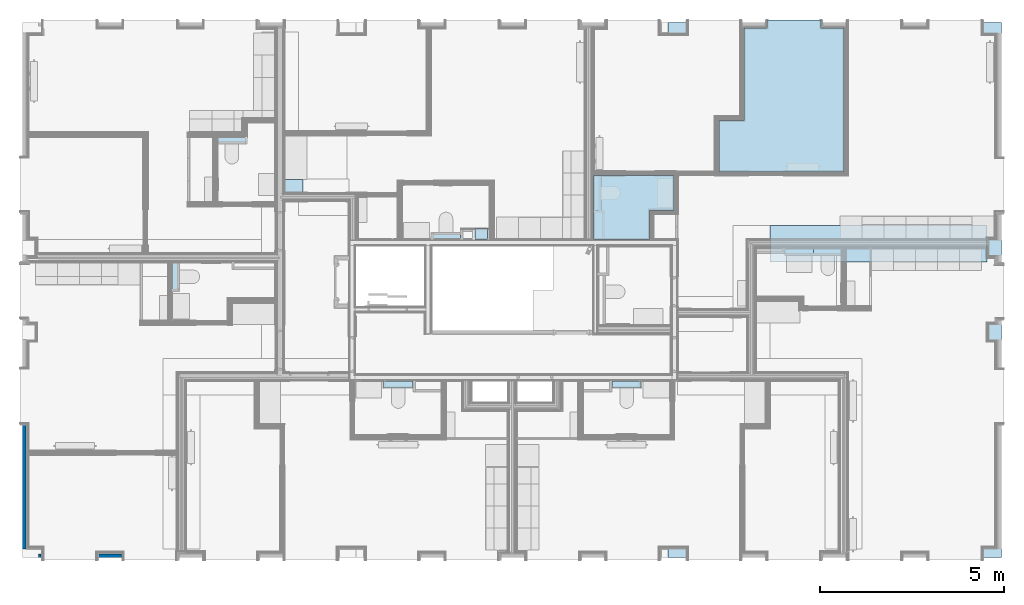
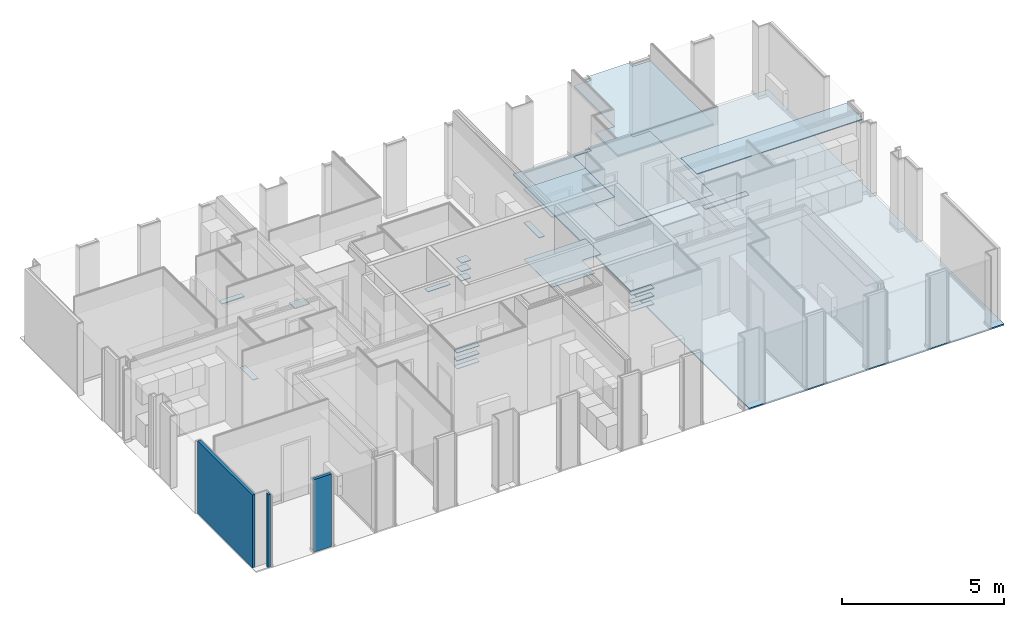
# One storey, part 1 of 64: 25 slabs, 3 walls.
"""IFC2X3 building model written with IfcOpenShell, lengths in metres."""

import ifcopenshell
import ifcopenshell.guid

model = None  # the IFC model being written
_history = None  # IfcOwnerHistory: only IFC2X3 demands one
_inside = {}  # id of a spatial element -> (the spatial element, [elements in it])
_under = {}  # id of a project, library or spatial element -> (it, [spatial elements below it])
_declared = {}  # id of a project -> (the project, [libraries it declares])
_typed = {}  # id of a type object -> (the type object, [elements of that type])
_made_of = {}  # id of a material, layer set ... -> (it, [elements and type objects made of it])


def new_model(schema):
    """Start an empty IFC model of exactly this schema.

    Asked for "IFC4X3", IfcOpenShell would pick the latest addendum, in which some entities
    have other attributes; the version numbers below select the first issue.
    IFC2X3 requires an IfcOwnerHistory on every rooted entity: one is made here for all.
    """
    global model, _history
    if schema == "IFC4X3":
        model = ifcopenshell.file(schema_version=(4, 3, 0, 0))
    else:
        model = ifcopenshell.file(schema=schema)
    _inside.clear()
    _under.clear()
    _declared.clear()
    _typed.clear()
    _made_of.clear()
    _history = None
    if model.schema == "IFC2X3":
        org = make("IfcOrganization", Name="unknown")
        user = make(
            "IfcPersonAndOrganization",
            ThePerson=make("IfcPerson", FamilyName="unknown"),
            TheOrganization=org,
        )
        app = make(
            "IfcApplication",
            ApplicationDeveloper=org,
            Version="unknown",
            ApplicationFullName="unknown",
            ApplicationIdentifier="unknown",
        )
        _history = make(
            "IfcOwnerHistory",
            OwningUser=user,
            OwningApplication=app,
            ChangeAction="ADDED",
            CreationDate=0,
        )
    return model


def make(cls, **values):
    """One entity of the class cls with the attributes given. An attribute that is None is left unset."""
    return model.create_entity(
        cls, **{name: value for name, value in values.items() if value is not None}
    )


def entity(cls, *values):
    """Any entity or typed value of the class cls, its attributes in the order of the schema. None: left unset."""
    e = model.create_entity(cls)
    for i, value in enumerate(values):
        if value is not None:
            e[i] = value
    return e


def rooted(cls, **values):
    """An entity with a GlobalId (a new one), such as an element, a storey or a relation."""
    return make(cls, GlobalId=ifcopenshell.guid.new(), OwnerHistory=_history, **values)


def si_unit(unit_type, name, prefix=None):
    """IfcSIUnit, for example si_unit("LENGTHUNIT", "METRE", prefix="MILLI")."""
    return make("IfcSIUnit", UnitType=unit_type, Prefix=prefix, Name=name)


def converted_unit(unit_type, name, factor, base, dimensions=None, offset=None):
    """IfcConversionBasedUnit, such as the inch: factor (a typed value) times the base unit."""
    return make(
        "IfcConversionBasedUnit"
        if offset is None
        else "IfcConversionBasedUnitWithOffset",
        ConversionOffset=offset,
        Dimensions=None
        if dimensions is None
        else entity("IfcDimensionalExponents", *dimensions),
        UnitType=unit_type,
        Name=name,
        ConversionFactor=make(
            "IfcMeasureWithUnit", ValueComponent=factor, UnitComponent=base
        ),
    )


def derived_unit(unit_type, elements):
    """IfcDerivedUnit: a product of units, each with its exponent."""
    return make(
        "IfcDerivedUnit",
        Elements=[
            make("IfcDerivedUnitElement", Unit=unit, Exponent=power)
            for unit, power in elements
        ],
        UnitType=unit_type,
    )


def money_unit(currency):
    """IfcMonetaryUnit."""
    return make("IfcMonetaryUnit", Currency=currency)


def assignment(units):
    """IfcUnitAssignment: the units of a project."""
    return None if units is None else make("IfcUnitAssignment", Units=units)


def point(xyz):
    """IfcCartesianPoint."""
    return None if xyz is None else make("IfcCartesianPoint", Coordinates=xyz)


def direction(xyz):
    """IfcDirection."""
    return None if xyz is None else make("IfcDirection", DirectionRatios=xyz)


def frame(location, z_axis=None, x_axis=None):
    """IfcAxis2Placement3D, a coordinate frame: its origin and axes. An axis left out is left unset."""
    return make(
        "IfcAxis2Placement3D",
        Location=point(location),
        Axis=direction(z_axis),
        RefDirection=direction(x_axis),
    )


def frame_2d(location, x_axis=None):
    """IfcAxis2Placement2D, a coordinate frame in the plane: its origin and x axis."""
    return make(
        "IfcAxis2Placement2D", Location=point(location), RefDirection=direction(x_axis)
    )


def origin_with_axes():
    """The frame at (0, 0, 0) with the z axis (0, 0, 1) and the x axis (1, 0, 0) written out."""
    return frame((0.0, 0.0, 0.0), z_axis=(0.0, 0.0, 1.0), x_axis=(1.0, 0.0, 0.0))


def place(relative_to, where):
    """IfcLocalPlacement: puts the frame where relative to a parent placement (None: the world)."""
    return make(
        "IfcLocalPlacement", PlacementRelTo=relative_to, RelativePlacement=where
    )


def context(
    kind, dimensions, precision=None, world=None, true_north=None, identifier=None
):
    """IfcGeometricRepresentationContext, for example the 3D "Model" context."""
    return make(
        "IfcGeometricRepresentationContext",
        ContextIdentifier=identifier,
        ContextType=kind,
        CoordinateSpaceDimension=dimensions,
        Precision=precision,
        WorldCoordinateSystem=world,
        TrueNorth=true_north,
    )


def subcontext(parent, identifier, kind, view, scale=None):
    """IfcGeometricRepresentationSubContext, for example "Body" below "Model"."""
    return make(
        "IfcGeometricRepresentationSubContext",
        ContextIdentifier=identifier,
        ContextType=kind,
        ParentContext=parent,
        TargetScale=scale,
        TargetView=view,
    )


def project(units=None, contexts=None):
    """IfcProject with its units and contexts."""
    return rooted(
        "IfcProject",
        Name="project",
        RepresentationContexts=contexts,
        UnitsInContext=assignment(units),
    )


def spatial(cls, under=None, at=None, **own):
    """A site, building, storey or space (cls), placed at a placement, below another one or the project."""
    s = rooted(cls, ObjectPlacement=at, **own)
    if under is not None:
        _under.setdefault(under.id(), (under, []))[1].append(s)
    return s


def profile(cls, at=None, kind="AREA", **sizes):
    """A parametric profile (cls). Its sizes go by their IFC names, for example OverallWidth=200.0."""
    return make(cls, ProfileType=kind, Position=at, **sizes)


def rectangle(**sizes):
    """IfcRectangleProfileDef."""
    return profile("IfcRectangleProfileDef", **sizes)


def extrude(swept, where, along, depth):
    """IfcExtrudedAreaSolid: the profile swept, set in the frame where, extruded along a direction by depth."""
    return make(
        "IfcExtrudedAreaSolid",
        SweptArea=swept,
        Position=where,
        ExtrudedDirection=direction(along),
        Depth=depth,
    )


def faces_of(points, faces, orient=None, outer=None):
    """IfcFace entities. A face is a list of loops; a loop is a list of indices into points, from 0.

    orient and outer hold one flag for each loop. By default every Orientation is true, the
    first loop of a face is its IfcFaceOuterBound and the others are IfcFaceBound.
    """
    made = []
    for i, loops in enumerate(faces):
        bounds = []
        for j, loop in enumerate(loops):
            is_outer = j == 0 if outer is None else outer[i][j]
            bounds.append(
                make(
                    "IfcFaceOuterBound" if is_outer else "IfcFaceBound",
                    Bound=make("IfcPolyLoop", Polygon=[points[k] for k in loop]),
                    Orientation=True if orient is None else orient[i][j],
                )
            )
        made.append(make("IfcFace", Bounds=bounds))
    return made


def faceted_brep(points, faces, orient=None, outer=None, voids=None):
    """IfcFacetedBrep: a solid bounded by flat faces; with voids (closed shells), ...WithVoids."""
    shared = [point(p) for p in points]
    hull = make("IfcClosedShell", CfsFaces=faces_of(shared, faces, orient, outer))
    if voids is None:
        return make("IfcFacetedBrep", Outer=hull)
    return make(
        "IfcFacetedBrepWithVoids",
        Outer=hull,
        Voids=[
            make(cls, CfsFaces=faces_of(shared, fs, o, b)) for cls, fs, o, b in voids
        ],
    )


def shape(context_of_items, identifier, shape_type, items):
    """IfcShapeRepresentation: the items that make up one representation, for example the "Body"."""
    return make(
        "IfcShapeRepresentation",
        ContextOfItems=context_of_items,
        RepresentationIdentifier=identifier,
        RepresentationType=shape_type,
        Items=items,
    )


def material(Name=None, Category=None):
    """IfcMaterial."""
    return make("IfcMaterial", Name=Name, Category=Category)


def layer(
    of_material, thickness, ventilated=None, Name=None, Category=None, Priority=None
):
    """IfcMaterialLayer: one layer of a wall or slab, of a material (None: an air gap)."""
    return make(
        "IfcMaterialLayer",
        Material=of_material,
        LayerThickness=thickness,
        IsVentilated=ventilated,
        Name=Name,
        Category=Category,
        Priority=Priority,
    )


def layer_set(layers, Name=None):
    """IfcMaterialLayerSet."""
    return make("IfcMaterialLayerSet", MaterialLayers=layers, LayerSetName=Name)


def layer_usage(for_layer_set, set_direction, sense, offset, extent=None):
    """IfcMaterialLayerSetUsage: how a layer set lies in its element."""
    return make(
        "IfcMaterialLayerSetUsage",
        ForLayerSet=for_layer_set,
        LayerSetDirection=set_direction,
        DirectionSense=sense,
        OffsetFromReferenceLine=offset,
        ReferenceExtent=extent,
    )


def made_of(thing, what):
    """Note that an element or type object is made of a material, layer set ...; save() writes the relation."""
    if what is not None:
        _made_of.setdefault(what.id(), (what, []))[1].append(thing)
    return thing


def type_object(cls, material=None, **own):
    """A type object (cls), such as IfcWallType, which elements share."""
    return made_of(rooted(cls, **own), material)


def element(
    cls,
    number,
    at=None,
    inside=None,
    cuts=None,
    type_object=None,
    material=None,
    context=None,
    identifier="Body",
    shape_type=None,
    held_by="IfcProductDefinitionShape",
    body=None,
    shapes=None,
    **own,
):
    """One element of the class cls, such as IfcWall. Its Tag is "e" and its number.

    at: its placement. inside: the storey or other place that contains it. cuts: it is an
    opening in that element (IfcRelVoidsElement). A single representation is given by context,
    identifier, shape_type and body (its items); several are given by shapes. held_by: the class
    of the entity that holds the representations. save() writes the other relations.
    """
    e = rooted(cls, Tag="e%d" % number, ObjectPlacement=at, **own)
    if body is not None:
        shapes = [shape(context, identifier, shape_type, body)]
    if shapes is not None:
        e.Representation = make(held_by, Representations=shapes)
    if inside is not None:
        _inside.setdefault(inside.id(), (inside, []))[1].append(e)
    if cuts is not None:
        rooted(
            "IfcRelVoidsElement", RelatingBuildingElement=cuts, RelatedOpeningElement=e
        )
    if type_object is not None:
        _typed.setdefault(type_object.id(), (type_object, []))[1].append(e)
    return made_of(e, material)


def aggregate(whole, parts):
    """IfcRelAggregates: a whole, such as a stair, and the parts it consists of."""
    return rooted("IfcRelAggregates", RelatingObject=whole, RelatedObjects=parts)


def save(model, path):
    """Write the relations noted so far, then the file.

    IfcRelAggregates (storeys below a building ...), IfcRelContainedInSpatialStructure (elements
    in a storey), IfcRelDefinesByType, IfcRelAssociatesMaterial and IfcRelDeclares: one each for
    every whole, place, type object, material and project.
    """
    for whole, parts in _under.values():
        aggregate(whole, parts)
    for where, things in _inside.values():
        rooted(
            "IfcRelContainedInSpatialStructure",
            RelatedElements=things,
            RelatingStructure=where,
        )
    for kind, things in _typed.values():
        rooted("IfcRelDefinesByType", RelatedObjects=things, RelatingType=kind)
    for what, things in _made_of.values():
        rooted("IfcRelAssociatesMaterial", RelatedObjects=things, RelatingMaterial=what)
    for by, libraries in _declared.values():
        rooted("IfcRelDeclares", RelatingContext=by, RelatedDefinitions=libraries)
    model.write(path)


model = new_model("IFC2X3")

# Units and contexts
model_context = context("Model", 3, precision=1e-05, world=origin_with_axes(), true_north=direction((0.0, 1.0)))
body_context = subcontext(model_context, "Body", "Model", "MODEL_VIEW", scale=1.0)
ifc_project = project(units=[si_unit("LENGTHUNIT", "METRE"), si_unit("AREAUNIT", "SQUARE_METRE"), si_unit("VOLUMEUNIT", "CUBIC_METRE"), si_unit("ABSORBEDDOSEUNIT", "GRAY"), si_unit("AMOUNTOFSUBSTANCEUNIT", "MOLE"), si_unit("DOSEEQUIVALENTUNIT", "SIEVERT"), si_unit("ELECTRICCAPACITANCEUNIT", "FARAD"), si_unit("ELECTRICCHARGEUNIT", "COULOMB"), si_unit("ELECTRICCONDUCTANCEUNIT", "SIEMENS"), si_unit("ELECTRICCURRENTUNIT", "AMPERE"), si_unit("ELECTRICRESISTANCEUNIT", "OHM"), si_unit("ELECTRICVOLTAGEUNIT", "VOLT"), si_unit("ENERGYUNIT", "JOULE"), si_unit("FORCEUNIT", "NEWTON"), si_unit("FREQUENCYUNIT", "HERTZ"), si_unit("ILLUMINANCEUNIT", "LUX"), si_unit("INDUCTANCEUNIT", "HENRY"), si_unit("LUMINOUSFLUXUNIT", "LUMEN"), si_unit("LUMINOUSINTENSITYUNIT", "CANDELA"), si_unit("MAGNETICFLUXDENSITYUNIT", "TESLA"), si_unit("MAGNETICFLUXUNIT", "WEBER"), si_unit("MASSUNIT", "GRAM"), converted_unit("PLANEANGLEUNIT", "degree", entity("IfcReal", 0.0174532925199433), si_unit("PLANEANGLEUNIT", "RADIAN"), dimensions=[0, 0, 0, 0, 0, 0, 0]), si_unit("POWERUNIT", "WATT"), si_unit("PRESSUREUNIT", "PASCAL"), si_unit("RADIOACTIVITYUNIT", "BECQUEREL"), si_unit("SOLIDANGLEUNIT", "STERADIAN"), si_unit("THERMODYNAMICTEMPERATUREUNIT", "KELVIN"), si_unit("TIMEUNIT", "SECOND"), derived_unit("ACCELERATIONUNIT", [(si_unit("LENGTHUNIT", "METRE"), 1), (si_unit("TIMEUNIT", "SECOND"), -2)]), derived_unit("ANGULARVELOCITYUNIT", [(converted_unit("PLANEANGLEUNIT", "degree", entity("IfcReal", 0.0174532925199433), si_unit("PLANEANGLEUNIT", "RADIAN"), dimensions=[0, 0, 0, 0, 0, 0, 0]), 1), (si_unit("TIMEUNIT", "SECOND"), -1)]), derived_unit("CURVATUREUNIT", [(converted_unit("PLANEANGLEUNIT", "degree", entity("IfcReal", 0.0174532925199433), si_unit("PLANEANGLEUNIT", "RADIAN"), dimensions=[0, 0, 0, 0, 0, 0, 0]), 1), (si_unit("LENGTHUNIT", "METRE"), -1)]), derived_unit("DYNAMICVISCOSITYUNIT", [(si_unit("PRESSUREUNIT", "PASCAL"), 1), (si_unit("TIMEUNIT", "SECOND"), 1)]), derived_unit("HEATFLUXDENSITYUNIT", [(si_unit("POWERUNIT", "WATT"), 1), (si_unit("LENGTHUNIT", "METRE"), -2)]), derived_unit("HEATINGVALUEUNIT", [(si_unit("ENERGYUNIT", "JOULE"), 1), (si_unit("MASSUNIT", "GRAM"), -1)]), derived_unit("INTEGERCOUNTRATEUNIT", [(si_unit("TIMEUNIT", "SECOND"), -1)]), derived_unit("IONCONCENTRATIONUNIT", [(si_unit("MASSUNIT", "GRAM"), 1), (si_unit("VOLUMEUNIT", "CUBIC_METRE"), -1)]), derived_unit("ISOTHERMALMOISTURECAPACITYUNIT", [(si_unit("VOLUMEUNIT", "CUBIC_METRE"), 1), (si_unit("MASSUNIT", "GRAM"), -1)]), derived_unit("KINEMATICVISCOSITYUNIT", [(si_unit("AREAUNIT", "SQUARE_METRE"), 1), (si_unit("TIMEUNIT", "SECOND"), -1)]), derived_unit("LINEARFORCEUNIT", [(si_unit("FORCEUNIT", "NEWTON"), 1), (si_unit("LENGTHUNIT", "METRE"), -1)]), derived_unit("LINEARMOMENTUNIT", [(si_unit("FORCEUNIT", "NEWTON"), 1), (si_unit("LENGTHUNIT", "METRE"), -1)]), derived_unit("LINEARSTIFFNESSUNIT", [(si_unit("FORCEUNIT", "NEWTON"), 1), (si_unit("LENGTHUNIT", "METRE"), -1)]), derived_unit("LINEARVELOCITYUNIT", [(si_unit("LENGTHUNIT", "METRE"), 1), (si_unit("TIMEUNIT", "SECOND"), -1)]), derived_unit("LUMINOUSINTENSITYDISTRIBUTIONUNIT", [(si_unit("LUMINOUSINTENSITYUNIT", "CANDELA"), 1), (si_unit("LUMINOUSFLUXUNIT", "LUMEN"), -1)]), derived_unit("MASSDENSITYUNIT", [(si_unit("MASSUNIT", "GRAM"), 1), (si_unit("VOLUMEUNIT", "CUBIC_METRE"), -1)]), derived_unit("MASSFLOWRATEUNIT", [(si_unit("MASSUNIT", "GRAM"), 1), (si_unit("TIMEUNIT", "SECOND"), -1)]), derived_unit("MASSPERLENGTHUNIT", [(si_unit("MASSUNIT", "GRAM"), 1), (si_unit("LENGTHUNIT", "METRE"), -1)]), derived_unit("MODULUSOFELASTICITYUNIT", [(si_unit("FORCEUNIT", "NEWTON"), 1), (si_unit("AREAUNIT", "SQUARE_METRE"), -1)]), derived_unit("MODULUSOFLINEARSUBGRADEREACTIONUNIT", [(si_unit("FORCEUNIT", "NEWTON"), 1), (si_unit("LENGTHUNIT", "METRE"), -2)]), derived_unit("MODULUSOFROTATIONALSUBGRADEREACTIONUNIT", [(si_unit("FORCEUNIT", "NEWTON"), 1), (si_unit("LENGTHUNIT", "METRE"), 1)]), derived_unit("MODULUSOFSUBGRADEREACTIONUNIT", [(si_unit("FORCEUNIT", "NEWTON"), 1), (si_unit("VOLUMEUNIT", "CUBIC_METRE"), -1)]), derived_unit("MOISTUREDIFFUSIVITYUNIT", [(si_unit("VOLUMEUNIT", "CUBIC_METRE"), 1), (si_unit("TIMEUNIT", "SECOND"), -1)]), derived_unit("MOLECULARWEIGHTUNIT", [(si_unit("MASSUNIT", "GRAM"), 1), (si_unit("AMOUNTOFSUBSTANCEUNIT", "MOLE"), -1)]), derived_unit("PLANARFORCEUNIT", [(si_unit("FORCEUNIT", "NEWTON"), 1), (si_unit("LENGTHUNIT", "METRE"), -2)]), derived_unit("ROTATIONALFREQUENCYUNIT", [(si_unit("TIMEUNIT", "SECOND"), -1)]), derived_unit("ROTATIONALMASSUNIT", [(si_unit("MASSUNIT", "GRAM"), 1), (si_unit("LENGTHUNIT", "METRE"), 2)]), derived_unit("ROTATIONALSTIFFNESSUNIT", [(si_unit("FORCEUNIT", "NEWTON"), 1), (si_unit("LENGTHUNIT", "METRE"), 1), (converted_unit("PLANEANGLEUNIT", "degree", entity("IfcReal", 0.0174532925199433), si_unit("PLANEANGLEUNIT", "RADIAN"), dimensions=[0, 0, 0, 0, 0, 0, 0]), -1)]), derived_unit("SECTIONAREAINTEGRALUNIT", [(si_unit("LENGTHUNIT", "METRE"), 5)]), derived_unit("SECTIONMODULUSUNIT", [(si_unit("LENGTHUNIT", "METRE"), 3)]), derived_unit("SHEARMODULUSUNIT", [(si_unit("FORCEUNIT", "NEWTON"), 1), (si_unit("AREAUNIT", "SQUARE_METRE"), -1)]), derived_unit("SOUNDPOWERUNIT", [(si_unit("ENERGYUNIT", "JOULE"), 1), (si_unit("TIMEUNIT", "SECOND"), -1)]), derived_unit("SPECIFICHEATCAPACITYUNIT", [(si_unit("FORCEUNIT", "NEWTON"), 1), (si_unit("MASSUNIT", "GRAM"), -1), (si_unit("THERMODYNAMICTEMPERATUREUNIT", "KELVIN"), -1)]), derived_unit("TEMPERATUREGRADIENTUNIT", [(si_unit("THERMODYNAMICTEMPERATUREUNIT", "KELVIN"), 1), (si_unit("LENGTHUNIT", "METRE"), -1)]), derived_unit("THERMALADMITTANCEUNIT", [(si_unit("POWERUNIT", "WATT"), 1), (si_unit("AREAUNIT", "SQUARE_METRE"), -1), (si_unit("THERMODYNAMICTEMPERATUREUNIT", "KELVIN"), -1)]), derived_unit("THERMALCONDUCTANCEUNIT", [(si_unit("POWERUNIT", "WATT"), 1), (si_unit("LENGTHUNIT", "METRE"), -1), (si_unit("THERMODYNAMICTEMPERATUREUNIT", "KELVIN"), -1)]), derived_unit("THERMALEXPANSIONCOEFFICIENTUNIT", [(si_unit("THERMODYNAMICTEMPERATUREUNIT", "KELVIN"), -1)]), derived_unit("THERMALRESISTANCEUNIT", [(si_unit("AREAUNIT", "SQUARE_METRE"), 1), (si_unit("POWERUNIT", "WATT"), -1)]), derived_unit("THERMALTRANSMITTANCEUNIT", [(si_unit("POWERUNIT", "WATT"), 1), (si_unit("AREAUNIT", "SQUARE_METRE"), -1), (si_unit("THERMODYNAMICTEMPERATUREUNIT", "KELVIN"), -1)]), derived_unit("TORQUEUNIT", [(si_unit("FORCEUNIT", "NEWTON"), 1), (si_unit("LENGTHUNIT", "METRE"), 1)]), derived_unit("VAPORPERMEABILITYUNIT", [(si_unit("MASSUNIT", "GRAM"), 1), (si_unit("TIMEUNIT", "SECOND"), -1)]), derived_unit("VOLUMETRICFLOWRATEUNIT", [(si_unit("VOLUMEUNIT", "CUBIC_METRE"), 1), (si_unit("TIMEUNIT", "SECOND"), -1)]), derived_unit("WARPINGCONSTANTUNIT", [(si_unit("LENGTHUNIT", "METRE"), 6)]), derived_unit("WARPINGMOMENTUNIT", [(si_unit("FORCEUNIT", "NEWTON"), 1), (si_unit("LENGTHUNIT", "METRE"), 2)]), money_unit("GBP")], contexts=[model_context])

# Site, building, storey
site_placement = place(None, origin_with_axes())
site = spatial("IfcSite", under=ifc_project, at=site_placement, Name="Site", CompositionType="ELEMENT")
building_placement = place(site_placement, origin_with_axes())
building = spatial("IfcBuilding", under=site, at=building_placement, Name="Building01", CompositionType="ELEMENT")
storey_placement = place(building_placement, frame((0.0, 0.0, 8.64), z_axis=(0.0, 0.0, 1.0), x_axis=(1.0, 0.0, 0.0)))
storey = spatial("IfcBuildingStorey", under=building, at=storey_placement, Name="2F", CompositionType="ELEMENT", Elevation=8.64)

# Slabs
ifc_material_1 = material(Name="A_BSUK_Ceramic_WallTiles")
slab_type_1 = type_object("IfcSlabType", Name="A-FloorsSlabs A_BSUK_Slabs", PredefinedType="FLOOR")
for number, where, z_axis, x_axis, name in (
    (1, (17.0075, 4.779998, 1.375), (0.0, 0.0, 1.0), (1.0, 0.0, 0.0), "A-FloorsSlabs A_BSUK_Slabs"),
    (2, (17.0075, 4.779998, 1.675), (0.0, 0.0, 1.0), (1.0, 0.0, 0.0), "A-FloorsSlabs A_BSUK_Slabs"),
    (3, (17.0075, 4.779998, 1.975), (0.0, 0.0, 1.0), (1.0, 0.0, 0.0), "A-FloorsSlabs A_BSUK_Slabs"),
):
    element("IfcSlab", number, at=place(storey_placement, frame(where, z_axis=z_axis, x_axis=x_axis)), inside=storey, type_object=slab_type_1, material=ifc_material_1, Name=name, ObjectType="A-FloorsSlabs A_BSUK_Slabs", context=body_context, shape_type="Brep", body=[
        faceted_brep([(0.0, 0.200002, 0.0), (0.0, 0.200002, 0.025), (0.0, 0.0, 0.025), (0.0, 0.0, 0.0), (-0.8, 3e-06, 0.025), (-0.8, 3e-06, 0.0), (-0.799999, 0.200002, 0.025), (-0.799999, 0.200002, 0.0)], [[[0, 1, 2, 3]], [[3, 2, 4, 5]], [[5, 4, 6, 7]], [[7, 6, 1, 0]], [[1, 6, 4, 2]], [[3, 5, 7, 0]]]),
    ])
for number, where, z_axis, x_axis, name in (
    (4, (9.992536, 4.779998, 1.375), (0.0, 0.0, 1.0), (1.0, 0.0, 0.0), "A-FloorsSlabs A_BSUK_Slabs"),
    (5, (9.992536, 4.779998, 1.675), (0.0, 0.0, 1.0), (1.0, 0.0, 0.0), "A-FloorsSlabs A_BSUK_Slabs"),
    (6, (9.992536, 4.779998, 1.975), (0.0, 0.0, 1.0), (1.0, 0.0, 0.0), "A-FloorsSlabs A_BSUK_Slabs"),
):
    element("IfcSlab", number, at=place(storey_placement, frame(where, z_axis=z_axis, x_axis=x_axis)), inside=storey, type_object=slab_type_1, material=ifc_material_1, Name=name, ObjectType="A-FloorsSlabs A_BSUK_Slabs", context=body_context, shape_type="Brep", body=[
        faceted_brep([(0.0, 0.0, 0.0), (0.0, 0.0, 0.025), (0.0, 0.200002, 0.025), (0.0, 0.200002, 0.0), (0.8, 3e-06, 0.0), (0.8, 3e-06, 0.025), (0.799999, 0.200002, 0.0), (0.799999, 0.200002, 0.025)], [[[0, 1, 2, 3]], [[4, 5, 1, 0]], [[6, 7, 5, 4]], [[3, 2, 7, 6]], [[1, 5, 7, 2]], [[3, 6, 4, 0]]]),
    ])
slab_1_placement = place(storey_placement, frame((4.44073, 6.914372, 1.375), z_axis=(0.0, 0.0, 1.0), x_axis=(0.0, 1.0, 0.0)))
element("IfcSlab", 7, at=slab_1_placement, inside=storey, type_object=slab_type_1, material=ifc_material_1, Name="A-FloorsSlabs A_BSUK_Slabs", ObjectType="A-FloorsSlabs A_BSUK_Slabs", context=body_context, shape_type="Brep", body=[
    faceted_brep([(0.496298, 1e-06, 0.0), (0.496298, 1e-06, 0.025), (0.496298, 0.2, 0.025), (0.496298, 0.2, 0.0), (1.296298, 4e-06, 0.0), (1.296298, 4e-06, 0.025), (1.296298, 0.2, 0.0), (1.296298, 0.2, 0.025)], [[[0, 1, 2, 3]], [[4, 5, 1, 0]], [[6, 7, 5, 4]], [[3, 2, 7, 6]], [[1, 5, 7, 2]], [[3, 6, 4, 0]]]),
])
ifc_material_2 = material(Name="A_BSUK_InternalFinishes_FloorScreed")
placement = place(storey_placement, frame((0.0, 0.0, -8.64), z_axis=(0.0, 0.0, 1.0), x_axis=(1.0, 0.0, 0.0)))
element("IfcSlab", 8, at=placement, inside=storey, type_object=slab_type_1, material=ifc_material_2, Name="A-FloorsSlabs A_BSUK_Slabs", ObjectType="CompoundSlabLeaf", context=body_context, shape_type="Brep", body=[
    faceted_brep([(17.73, 14.73, 8.59), (17.73, 14.73, 8.64), (26.81, 14.73, 8.64), (26.81, 14.73, 8.59), (17.73, 0.17, 8.59), (17.73, 0.17, 8.64), (26.81, 0.17, 8.59), (26.81, 0.17, 8.64)], [[[0, 1, 2, 3]], [[4, 5, 1, 0]], [[6, 7, 5, 4]], [[3, 2, 7, 6]], [[1, 5, 7, 2]], [[3, 6, 4, 0]]]),
])
element("IfcSlab", 9, at=placement, inside=storey, type_object=slab_type_1, material=ifc_material_1, Name="A-FloorsSlabs A_BSUK_Slabs", ObjectType="CompoundSlabLeaf", context=body_context, shape_type="Brep", body=[
    faceted_brep([(12.088871, 9.02, 10.015), (12.088871, 9.02, 10.04), (12.088871, 8.82, 10.04), (12.088871, 8.82, 10.015), (11.288873, 9.019997, 10.015), (11.288873, 9.019997, 10.04), (11.288874, 8.82, 10.015), (11.288874, 8.82, 10.04)], [[[0, 1, 2, 3]], [[4, 5, 1, 0]], [[6, 7, 5, 4]], [[3, 2, 7, 6]], [[1, 5, 7, 2]], [[3, 6, 4, 0]]]),
])
element("IfcSlab", 10, at=placement, inside=storey, type_object=slab_type_1, material=ifc_material_1, Name="A-FloorsSlabs A_BSUK_Slabs", ObjectType="CompoundSlabLeaf", context=body_context, shape_type="Brep", body=[
    faceted_brep([(12.478585, 8.82, 10.015), (12.478585, 8.82, 10.04), (12.478585, 9.12, 10.04), (12.478585, 9.12, 10.015), (12.828585, 8.82, 10.015), (12.828585, 8.82, 10.04), (12.828585, 9.12, 10.015), (12.828585, 9.12, 10.04)], [[[0, 1, 2, 3]], [[4, 5, 1, 0]], [[6, 7, 5, 4]], [[3, 2, 7, 6]], [[1, 5, 7, 2]], [[3, 6, 4, 0]]]),
])
element("IfcSlab", 11, at=placement, inside=storey, type_object=slab_type_1, material=ifc_material_1, Name="A-FloorsSlabs A_BSUK_Slabs", ObjectType="CompoundSlabLeaf", context=body_context, shape_type="Brep", body=[
    faceted_brep([(12.478585, 8.82, 10.68), (12.478585, 8.82, 10.705), (12.478585, 9.12, 10.705), (12.478585, 9.12, 10.68), (12.828585, 8.82, 10.68), (12.828585, 8.82, 10.705), (12.828585, 9.12, 10.68), (12.828585, 9.12, 10.705)], [[[0, 1, 2, 3]], [[4, 5, 1, 0]], [[6, 7, 5, 4]], [[3, 2, 7, 6]], [[1, 5, 7, 2]], [[3, 6, 4, 0]]]),
])
element("IfcSlab", 12, at=placement, inside=storey, type_object=slab_type_1, material=ifc_material_1, Name="A-FloorsSlabs A_BSUK_Slabs", ObjectType="CompoundSlabLeaf", context=body_context, shape_type="Brep", body=[
    faceted_brep([(12.478585, 8.82, 10.359973), (12.478585, 8.82, 10.384973), (12.478585, 9.12, 10.384973), (12.478585, 9.12, 10.359973), (12.828585, 8.82, 10.359973), (12.828585, 8.82, 10.384973), (12.828585, 9.12, 10.359973), (12.828585, 9.12, 10.384973)], [[[0, 1, 2, 3]], [[4, 5, 1, 0]], [[6, 7, 5, 4]], [[3, 2, 7, 6]], [[1, 5, 7, 2]], [[3, 6, 4, 0]]]),
])
ifc_material_3 = material(Name="A_BSUK_Carpet-Pile")
element("IfcSlab", 13, at=placement, inside=storey, type_object=slab_type_1, material=ifc_material_3, Name="A-FloorsSlabs A_BSUK_Slabs", ObjectType="CompoundSlabLeaf", context=body_context, shape_type="Brep", body=[
    faceted_brep([(19.81, 12.064378, 8.643), (19.81, 12.064378, 8.655), (19.81, 14.582, 8.655), (19.81, 14.582, 8.643), (19.120284, 12.064378, 8.643), (19.120284, 12.064378, 8.655), (19.120284, 10.665, 8.643), (19.120284, 10.665, 8.655), (22.53, 10.665, 8.643), (22.53, 10.665, 8.655), (22.53, 14.582, 8.643), (22.53, 14.582, 8.655), (21.905, 14.582, 8.643), (21.905, 14.582, 8.655), (21.905, 14.8, 8.643), (21.905, 14.8, 8.655), (20.435, 14.8, 8.643), (20.435, 14.8, 8.655), (20.435, 14.582, 8.643), (20.435, 14.582, 8.655)], [[[0, 1, 2, 3]], [[4, 5, 1, 0]], [[6, 7, 5, 4]], [[8, 9, 7, 6]], [[10, 11, 9, 8]], [[12, 13, 11, 10]], [[14, 15, 13, 12]], [[16, 17, 15, 14]], [[18, 19, 17, 16]], [[3, 2, 19, 18]], [[1, 5, 7, 9, 11, 13, 15, 17, 19, 2]], [[3, 18, 16, 14, 12, 10, 8, 6, 4, 0]]]),
])
ifc_material_4 = material(Name="A_BSUK_CeilingSoffitFinishes_Suspended")
element("IfcSlab", 14, at=placement, inside=storey, type_object=slab_type_1, material=ifc_material_4, Name="A-FloorsSlabs A_BSUK_Slabs", ObjectType="CompoundSlabLeaf", context=body_context, shape_type="Brep", body=[
    faceted_brep([(19.81, 12.064378, 11.255), (19.81, 12.064378, 11.27), (19.81, 14.582, 11.27), (19.81, 14.582, 11.255), (19.120284, 12.064378, 11.255), (19.120284, 12.064378, 11.27), (19.120284, 10.665, 11.255), (19.120284, 10.665, 11.27), (22.53, 10.665, 11.255), (22.53, 10.665, 11.27), (22.53, 14.582, 11.255), (22.53, 14.582, 11.27), (21.905, 14.582, 11.255), (21.905, 14.582, 11.27), (21.905, 14.8, 11.255), (21.905, 14.8, 11.27), (20.435, 14.8, 11.255), (20.435, 14.8, 11.27), (20.435, 14.582, 11.255), (20.435, 14.582, 11.27)], [[[0, 1, 2, 3]], [[4, 5, 1, 0]], [[6, 7, 5, 4]], [[8, 9, 7, 6]], [[10, 11, 9, 8]], [[12, 13, 11, 10]], [[14, 15, 13, 12]], [[16, 17, 15, 14]], [[18, 19, 17, 16]], [[3, 2, 19, 18]], [[1, 5, 7, 9, 11, 13, 15, 17, 19, 2]], [[3, 18, 16, 14, 12, 10, 8, 6, 4, 0]]]),
])
element("IfcSlab", 15, at=placement, inside=storey, type_object=slab_type_1, material=ifc_material_4, Name="A-FloorsSlabs A_BSUK_Slabs", ObjectType="CompoundSlabLeaf", context=body_context, shape_type="Brep", body=[
    faceted_brep([(15.708132, 10.57, 11.255), (15.708132, 10.57, 11.27), (17.905, 10.57, 11.27), (17.905, 10.57, 11.255), (15.708132, 8.82, 11.255), (15.708132, 8.82, 11.27), (17.238132, 8.82, 11.255), (17.238132, 8.82, 11.27), (17.238132, 9.62, 11.255), (17.238132, 9.62, 11.27), (17.905, 9.62, 11.255), (17.905, 9.62, 11.27)], [[[0, 1, 2, 3]], [[4, 5, 1, 0]], [[6, 7, 5, 4]], [[8, 9, 7, 6]], [[10, 11, 9, 8]], [[3, 2, 11, 10]], [[1, 5, 7, 9, 11, 2]], [[3, 10, 8, 6, 4, 0]]]),
])
element("IfcSlab", 16, at=placement, inside=storey, type_object=slab_type_1, material=ifc_material_1, Name="A-FloorsSlabs A_BSUK_Slabs", ObjectType="CompoundSlabLeaf", context=body_context, shape_type="Brep", body=[
    faceted_brep([(15.908132, 9.62, 10.015), (15.908132, 9.62, 10.04), (15.708132, 9.62, 10.04), (15.708132, 9.62, 10.015), (15.908132, 10.57, 10.015), (15.908132, 10.57, 10.04), (15.708132, 10.57, 10.015), (15.708132, 10.57, 10.04)], [[[0, 1, 2, 3]], [[4, 5, 1, 0]], [[6, 7, 5, 4]], [[3, 2, 7, 6]], [[1, 5, 7, 2]], [[3, 6, 4, 0]]]),
])
ifc_material_5 = material(Name="A_BSUK_Ceramic_FloorTiles")
element("IfcSlab", 17, at=placement, inside=storey, type_object=slab_type_1, material=ifc_material_5, Name="A-FloorsSlabs A_BSUK_Slabs", ObjectType="CompoundSlabLeaf", context=body_context, shape_type="Brep", body=[
    faceted_brep([(15.708132, 8.82, 8.643), (15.708132, 8.82, 8.655), (15.708132, 10.57, 8.655), (15.708132, 10.57, 8.643), (17.238132, 8.82, 8.643), (17.238132, 8.82, 8.655), (17.238132, 9.62, 8.643), (17.238132, 9.62, 8.655), (17.905, 9.62, 8.643), (17.905, 9.62, 8.655), (17.905, 10.57, 8.643), (17.905, 10.57, 8.655)], [[[0, 1, 2, 3]], [[4, 5, 1, 0]], [[6, 7, 5, 4]], [[8, 9, 7, 6]], [[10, 11, 9, 8]], [[3, 2, 11, 10]], [[1, 5, 7, 9, 11, 2]], [[3, 10, 8, 6, 4, 0]]]),
])
element("IfcSlab", 18, at=placement, inside=storey, type_object=slab_type_1, material=ifc_material_1, Name="A-FloorsSlabs A_BSUK_Slabs", ObjectType="CompoundSlabLeaf", context=body_context, shape_type="Brep", body=[
    faceted_brep([(5.464669, 11.43067, 10.015), (5.464669, 11.43067, 10.04), (5.464669, 11.63067, 10.04), (5.464669, 11.63067, 10.015), (6.264669, 11.430672, 10.015), (6.264669, 11.430672, 10.04), (6.264669, 11.63067, 10.015), (6.264669, 11.63067, 10.04)], [[[0, 1, 2, 3]], [[4, 5, 1, 0]], [[6, 7, 5, 4]], [[3, 2, 7, 6]], [[1, 5, 7, 2]], [[3, 6, 4, 0]]]),
])
element("IfcSlab", 19, at=placement, inside=storey, type_object=slab_type_1, material=ifc_material_1, Name="A-FloorsSlabs A_BSUK_Slabs", ObjectType="CompoundSlabLeaf", context=body_context, shape_type="Brep", body=[
    faceted_brep([(22.476661, 8.595, 10.015), (22.476661, 8.595, 10.04), (22.476661, 8.395001, 10.04), (22.476661, 8.395001, 10.015), (21.699661, 8.594999, 10.015), (21.699661, 8.594999, 10.04), (21.699661, 8.395003, 10.015), (21.699661, 8.395003, 10.04)], [[[0, 1, 2, 3]], [[4, 5, 1, 0]], [[6, 7, 5, 4]], [[3, 2, 7, 6]], [[1, 5, 7, 2]], [[3, 6, 4, 0]]]),
])
element("IfcSlab", 20, at=placement, inside=storey, type_object=slab_type_1, material=ifc_material_1, Name="A-FloorsSlabs A_BSUK_Slabs", ObjectType="CompoundSlabLeaf", context=body_context, shape_type="Brep", body=[
    faceted_brep([(21.699661, 8.595, 10.015), (21.699661, 8.595, 10.04), (21.699661, 8.395003, 10.04), (21.699661, 8.395003, 10.015), (20.922661, 8.595, 10.015), (20.922661, 8.595, 10.04), (20.922661, 8.394685, 10.015), (20.922661, 8.394685, 10.04)], [[[0, 1, 2, 3]], [[4, 5, 1, 0]], [[6, 7, 5, 4]], [[3, 2, 7, 6]], [[1, 5, 7, 2]], [[3, 6, 4, 0]]]),
])
element("IfcSlab", 21, at=placement, inside=storey, type_object=slab_type_1, material=ifc_material_1, Name="A-FloorsSlabs A_BSUK_Slabs", ObjectType="CompoundSlabLeaf", context=body_context, shape_type="Brep", body=[
    faceted_brep([(7.804669, 10.453124, 10.015), (7.804669, 10.453124, 10.04), (7.804669, 10.087704, 10.04), (7.804669, 10.087704, 10.015), (7.289669, 10.453124, 10.015), (7.289669, 10.453124, 10.04), (7.289669, 10.087704, 10.015), (7.289669, 10.087704, 10.04)], [[[0, 1, 2, 3]], [[4, 5, 1, 0]], [[6, 7, 5, 4]], [[3, 2, 7, 6]], [[1, 5, 7, 2]], [[3, 6, 4, 0]]]),
])
element("IfcSlab", 22, at=placement, inside=storey, type_object=slab_type_1, material=ifc_material_4, Name="A-FloorsSlabs A_BSUK_Slabs", ObjectType="CompoundSlabLeaf", context=body_context, shape_type="Brep", body=[
    faceted_brep([(20.510161, 8.2075, 11.605), (20.510161, 8.2075, 11.62), (20.510161, 9.2075, 11.62), (20.510161, 9.2075, 11.605), (26.417, 8.2075, 11.605), (26.417, 8.2075, 11.62), (26.417, 9.2075, 11.605), (26.417, 9.2075, 11.62)], [[[0, 1, 2, 3]], [[4, 5, 1, 0]], [[6, 7, 5, 4]], [[3, 2, 7, 6]], [[1, 5, 7, 2]], [[3, 6, 4, 0]]]),
])
element("IfcSlab", 23, at=placement, inside=storey, type_object=slab_type_1, material=ifc_material_4, Name="A-FloorsSlabs A_BSUK_Slabs", ObjectType="CompoundSlabLeaf", context=body_context, shape_type="Brep", body=[
    faceted_brep([(20.510161, 8.2075, 11.59), (20.510161, 8.2075, 11.605), (20.510161, 9.2075, 11.605), (20.510161, 9.2075, 11.59), (26.417, 8.2075, 11.59), (26.417, 8.2075, 11.605), (26.417, 9.2075, 11.59), (26.417, 9.2075, 11.605)], [[[0, 1, 2, 3]], [[4, 5, 1, 0]], [[6, 7, 5, 4]], [[3, 2, 7, 6]], [[1, 5, 7, 2]], [[3, 6, 4, 0]]]),
])
ifc_material_6 = material(Name="A_BSUK_ExpandedPolystyreneBoards")
slab_type_2 = type_object("IfcSlabType", Name="A-FloorsSlabs A_BSUK_ExpandedPolystyreneBoards", PredefinedType="FLOOR")
element("IfcSlab", 24, at=placement, inside=storey, type_object=slab_type_2, material=ifc_material_6, Name="A-FloorsSlabs A_BSUK_ExpandedPolystyreneBoards", ObjectType="CompoundSlabLeaf", context=body_context, shape_type="Brep", body=[
    faceted_brep([(19.81, 12.064378, 11.27), (19.81, 12.064378, 11.32), (19.81, 14.582, 11.32), (19.81, 14.582, 11.27), (19.120284, 12.064378, 11.27), (19.120284, 12.064378, 11.32), (19.120284, 10.665, 11.27), (19.120284, 10.665, 11.32), (22.53, 10.665, 11.27), (22.53, 10.665, 11.32), (22.53, 14.582, 11.27), (22.53, 14.582, 11.32), (21.905, 14.582, 11.27), (21.905, 14.582, 11.32), (21.905, 14.8, 11.27), (21.905, 14.8, 11.32), (20.435, 14.8, 11.27), (20.435, 14.8, 11.32), (20.435, 14.582, 11.27), (20.435, 14.582, 11.32)], [[[0, 1, 2, 3]], [[4, 5, 1, 0]], [[6, 7, 5, 4]], [[8, 9, 7, 6]], [[10, 11, 9, 8]], [[12, 13, 11, 10]], [[14, 15, 13, 12]], [[16, 17, 15, 14]], [[18, 19, 17, 16]], [[3, 2, 19, 18]], [[1, 5, 7, 9, 11, 13, 15, 17, 19, 2]], [[3, 18, 16, 14, 12, 10, 8, 6, 4, 0]]]),
])
element("IfcSlab", 25, at=placement, inside=storey, type_object=slab_type_2, material=ifc_material_6, Name="A-FloorsSlabs A_BSUK_ExpandedPolystyreneBoards", ObjectType="CompoundSlabLeaf", context=body_context, shape_type="Brep", body=[
    faceted_brep([(15.708132, 10.57, 11.27), (15.708132, 10.57, 11.32), (17.905, 10.57, 11.32), (17.905, 10.57, 11.27), (15.708132, 8.82, 11.27), (15.708132, 8.82, 11.32), (17.238132, 8.82, 11.27), (17.238132, 8.82, 11.32), (17.238132, 9.62, 11.27), (17.238132, 9.62, 11.32), (17.905, 9.62, 11.27), (17.905, 9.62, 11.32)], [[[0, 1, 2, 3]], [[4, 5, 1, 0]], [[6, 7, 5, 4]], [[8, 9, 7, 6]], [[10, 11, 9, 8]], [[3, 2, 11, 10]], [[1, 5, 7, 9, 11, 2]], [[3, 10, 8, 6, 4, 0]]]),
])

# Walls
ifc_material_7 = material(Name="A_BSUK_WallsExternal_Block")
ifc_layer = layer(ifc_material_7, 0.1, ventilated=False)
ifc_layer_set = layer_set([ifc_layer])
ifc_layer_usage = layer_usage(ifc_layer_set, "AXIS2", "POSITIVE", 0.0)
wall_type = type_object("IfcWallType", Name="A-Walls-ExternalBlock", PredefinedType="NOTDEFINED")
wall_1_placement = place(storey_placement, frame((0.17, 3.77418, 0.0), z_axis=(0.0, 0.0, 1.0), x_axis=(0.0, -1.0, 0.0)))
element("IfcWallStandardCase", 26, at=wall_1_placement, inside=storey, type_object=wall_type, material=ifc_layer_usage, Name="A-Walls-ExternalBlock", ObjectType="A-Walls-ExternalBlock", context=body_context, shape_type="SweptSolid", body=[
    extrude(rectangle(XDim=3.37418, YDim=0.1, at=frame_2d((1.68709, 0.05), x_axis=(1.0, 0.0))), origin_with_axes(), (0.0, 0.0, 1.0), 2.74),
])
wall_2_placement = place(storey_placement, frame((0.677, 0.27, 0.0), z_axis=(0.0, 0.0, 1.0), x_axis=(-1.0, 0.0, 0.0)))
element("IfcWallStandardCase", 27, at=wall_2_placement, inside=storey, type_object=wall_type, material=ifc_layer_usage, Name="A-Walls-ExternalBlock", ObjectType="A-Walls-ExternalBlock", context=body_context, shape_type="SweptSolid", body=[
    extrude(rectangle(XDim=0.077, YDim=0.1, at=frame_2d((0.0385, 0.05), x_axis=(1.0, 0.0))), origin_with_axes(), (0.0, 0.0, 1.0), 2.74),
])
wall_3_placement = place(storey_placement, frame((2.867, 0.27, 0.0), z_axis=(0.0, 0.0, 1.0), x_axis=(-1.0, 0.0, 0.0)))
element("IfcWallStandardCase", 28, at=wall_3_placement, inside=storey, type_object=wall_type, material=ifc_layer_usage, Name="A-Walls-ExternalBlock", ObjectType="A-Walls-ExternalBlock", context=body_context, shape_type="SweptSolid", body=[
    extrude(rectangle(XDim=0.624, YDim=0.1, at=frame_2d((0.312, 0.05), x_axis=(-1.0, 0.0))), origin_with_axes(), (0.0, 0.0, 1.0), 2.74),
])

save(model, "model.ifc")
